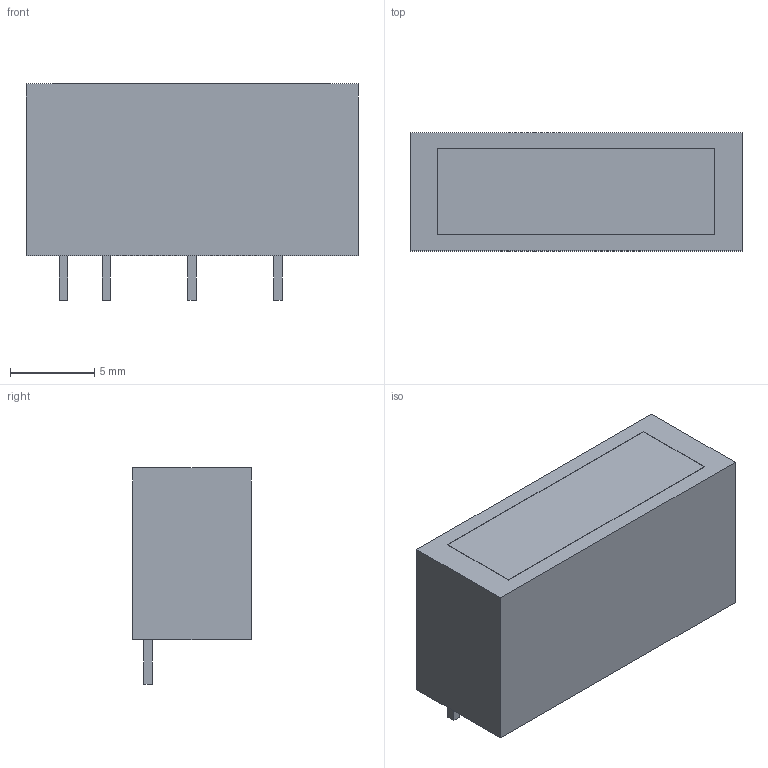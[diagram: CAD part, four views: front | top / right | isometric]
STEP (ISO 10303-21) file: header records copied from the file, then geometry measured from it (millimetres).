
FILE_DESCRIPTION(('FreeCAD Model'),'2;1');
FILE_NAME('Open CASCADE Shape Model','2026-09-23T12:07:02',('FreeCAD'),( 'FreeCAD'),'Open CASCADE STEP processor 7.8','FreeCAD','Unknown');
FILE_SCHEMA(('AUTOMOTIVE_DESIGN { 1 0 10303 214 1 1 1 1 }'));
Length unit declared in the file: millimetre
Products named in the file (1): Open CASCADE STEP translator 7.8 14
Bounding box: 19.65 x 7 x 12.83 mm (x, y, z)
Volume: 1402.1 mm3; surface area: 1010.4 mm2
Topology: 6 solids, 6 shells, 36 faces, 72 edges, 48 vertices
Faces by surface type: plane 36
Entity records: 916 total; most frequent: CARTESIAN_POINT 157, DIRECTION 146, ORIENTED_EDGE 144, EDGE_CURVE 72, LINE 72, VECTOR 72, VERTEX_POINT 48, AXIS2_PLACEMENT_3D 37
